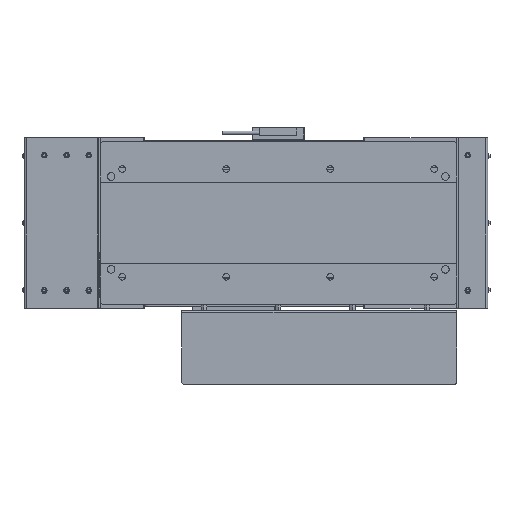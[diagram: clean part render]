
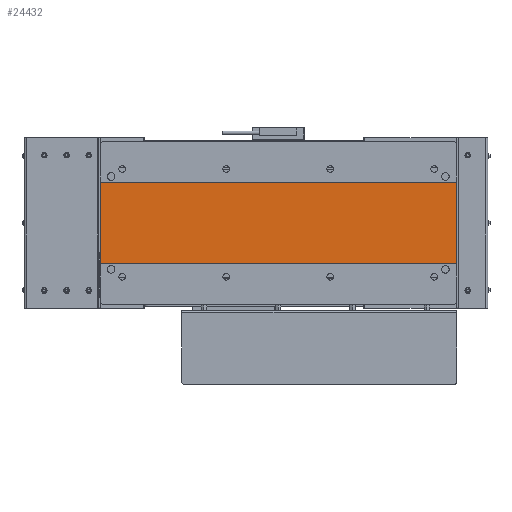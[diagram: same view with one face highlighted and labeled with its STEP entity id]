
A CAD part, front view. The second image highlights one B-rep face of the part: STEP entity #24432.
In plain terms, the highlighted planar face has unit normal (0, -1, 0).
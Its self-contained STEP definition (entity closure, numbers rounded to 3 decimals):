
#1819 = CARTESIAN_POINT ( 'NONE',  ( -240., 1., 55. ) ) ;
#4460 = EDGE_CURVE ( 'NONE', #38418, #32185, #16860, .T. ) ;
#5716 = DIRECTION ( 'NONE',  ( 0., 0., 1. ) ) ;
#5773 = PLANE ( 'NONE',  #28424 ) ;
#6554 = EDGE_CURVE ( 'NONE', #32185, #53805, #14392, .T. ) ;
#9248 = VERTEX_POINT ( 'NONE', #50560 ) ;
#10008 = ORIENTED_EDGE ( 'NONE', *, *, #24764, .F. ) ;
#12430 = CARTESIAN_POINT ( 'NONE',  ( 240., 1., 55. ) ) ;
#14392 = LINE ( 'NONE', #12430, #45686 ) ;
#14938 = DIRECTION ( 'NONE',  ( 0., 1., 0. ) ) ;
#16138 = EDGE_CURVE ( 'NONE', #9248, #53805, #44505, .T. ) ;
#16860 = LINE ( 'NONE', #29700, #53465 ) ;
#17241 = FACE_OUTER_BOUND ( 'NONE', #47518, .T. ) ;
#17838 = VECTOR ( 'NONE', #5716, 1000. ) ;
#18320 = DIRECTION ( 'NONE',  ( 1., 0., 0. ) ) ;
#20774 = ORIENTED_EDGE ( 'NONE', *, *, #16138, .F. ) ;
#21665 = ORIENTED_EDGE ( 'NONE', *, *, #6554, .T. ) ;
#22944 = DIRECTION ( 'NONE',  ( 0., 0., 1. ) ) ;
#24432 = ADVANCED_FACE ( 'NONE', ( #17241 ), #5773, .F. ) ;
#24764 = EDGE_CURVE ( 'NONE', #38418, #9248, #30483, .T. ) ;
#28424 = AXIS2_PLACEMENT_3D ( 'NONE', #39672, #14938, #22944 ) ;
#29700 = CARTESIAN_POINT ( 'NONE',  ( -240., 1., -55. ) ) ;
#30483 = LINE ( 'NONE', #1819, #17838 ) ;
#30776 = CARTESIAN_POINT ( 'NONE',  ( 240., 1., -55. ) ) ;
#32185 = VERTEX_POINT ( 'NONE', #30776 ) ;
#36297 = CARTESIAN_POINT ( 'NONE',  ( 240., 1., 55. ) ) ;
#38418 = VERTEX_POINT ( 'NONE', #52130 ) ;
#39292 = CARTESIAN_POINT ( 'NONE',  ( -240., 1., 55. ) ) ;
#39672 = CARTESIAN_POINT ( 'NONE',  ( -240., 1., 55. ) ) ;
#42395 = DIRECTION ( 'NONE',  ( 0., 0., 1. ) ) ;
#44505 = LINE ( 'NONE', #39292, #51139 ) ;
#45686 = VECTOR ( 'NONE', #42395, 1000. ) ;
#47518 = EDGE_LOOP ( 'NONE', ( #21665, #20774, #10008, #48033 ) ) ;
#48024 = DIRECTION ( 'NONE',  ( 1., 0., 0. ) ) ;
#48033 = ORIENTED_EDGE ( 'NONE', *, *, #4460, .T. ) ;
#50560 = CARTESIAN_POINT ( 'NONE',  ( -240., 1., 55. ) ) ;
#51139 = VECTOR ( 'NONE', #18320, 1000. ) ;
#52130 = CARTESIAN_POINT ( 'NONE',  ( -240., 1., -55. ) ) ;
#53465 = VECTOR ( 'NONE', #48024, 1000. ) ;
#53805 = VERTEX_POINT ( 'NONE', #36297 ) ;
